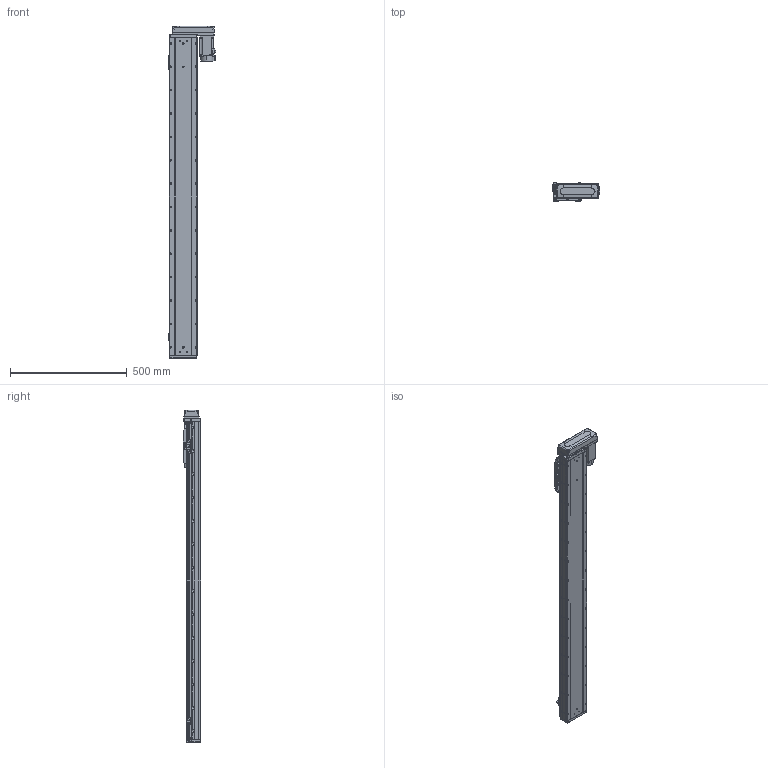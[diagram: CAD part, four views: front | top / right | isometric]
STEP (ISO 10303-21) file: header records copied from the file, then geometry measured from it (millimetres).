
FILE_DESCRIPTION (( 'STEP AP203' ), '1' );
FILE_NAME ('GTH12-1150-BL-M40-C4.step', '2025-07-16T03:40:20', ( '' ), ( '' ), 'SwSTEP 2.0', 'SolidWorks 2023', '' );
FILE_SCHEMA (( 'CONFIG_CONTROL_DESIGN' ));
Length unit declared in the file: millimetre
Products named in the file (17): CTHA86-033_M40B; GTH80-028; GTH120-013; 感应器总成右; GTH120-003; GBT 70.1-M5×16; 感应器总成左; GTH12-1150-BL-M40-C4; GTH80-022; GTH120-006; hg-kn43j_-s100_; GBT 70.1-M3×6; BTH-M3X5X6; GBT 70.3-M3×8; GTH120-004; GTH120-027-1_GTH120-027-2; GTH120-001_1150
Assembly tree (38 placements, depth 2):
  GTH12-1150-BL-M40-C4
    GTH120-001_1150
    GTH120-003
    GTH120-006
    GTH120-004
    GTH120-013
    GBT 70.1-M3×6  x2
    GBT 70.1-M5×16  x10
    GBT 70.3-M3×8  x4
    GTH80-022
    GTH80-028  x2
    BTH-M3X5X6  x8
    hg-kn43j_-s100_
    CTHA86-033_M40B
    GTH120-027-1_GTH120-027-2
    感应器总成右  x2
    感应器总成左
Bounding box: 203.5 x 76 x 1420.5 mm (x, y, z)
Volume: 10113195.5 mm3; surface area: 848294.7 mm2
Topology: 55 solids, 55 shells, 2520 faces, 5955 edges, 3671 vertices
Faces by surface type: plane 1268, cylinder 752, cone 324, torus 162, sphere 8, bspline 6
Entity records: 56369 total; most frequent: CARTESIAN_POINT 9644, DIRECTION 9582, ORIENTED_EDGE 8902, EDGE_CURVE 4451, AXIS2_PLACEMENT_3D 3342, VECTOR 2898, LINE 2898, VERTEX_POINT 2804
